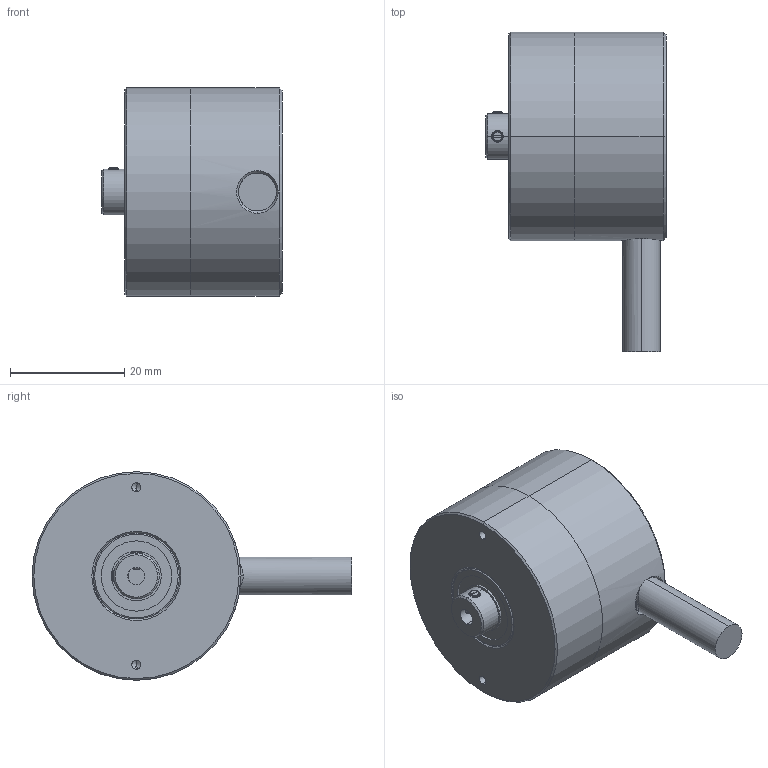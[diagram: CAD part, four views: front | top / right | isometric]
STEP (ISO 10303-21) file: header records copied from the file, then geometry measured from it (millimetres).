
FILE_DESCRIPTION (( 'STEP AP214' ), '1' );
FILE_NAME ('ﾋﾈﾐ-ﾌﾀ237ﾀ.STEP', '2017-05-23T08:34:08', ( '' ), ( '' ), 'SwSTEP 2.0', 'SolidWorks 2013', '' );
FILE_SCHEMA (( 'AUTOMOTIVE_DESIGN' ));
Length unit declared in the file: millimetre
Products named in the file (1): ﾋﾈﾐ-ﾌﾀ237ﾀ
Bounding box: 31.5 x 55.95 x 36.5 mm (x, y, z)
Volume: 19872.6 mm3; surface area: 14698.2 mm2
Topology: 15 solids, 15 shells, 742 faces, 2153 edges, 1392 vertices
Faces by surface type: cylinder 192, sphere 192, cone 179, torus 92, plane 72, bspline 15
Entity records: 41789 total; most frequent: CARTESIAN_POINT 14566, ORIENTED_EDGE 4282, DIRECTION 3747, EDGE_CURVE 2141, AXIS2_PLACEMENT_3D 1668, VERTEX_POINT 1392, CIRCLE 940, EDGE_LOOP 825
